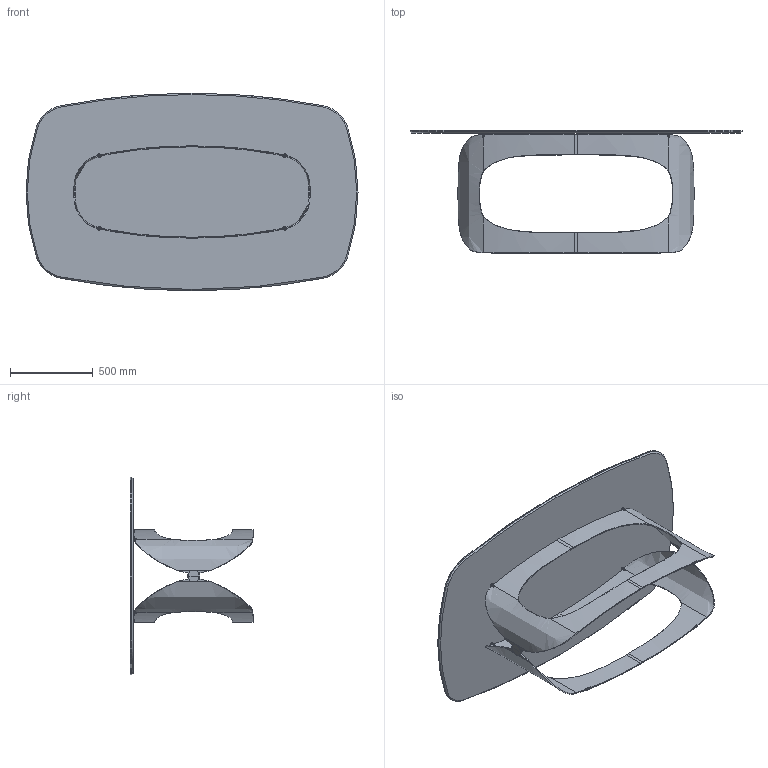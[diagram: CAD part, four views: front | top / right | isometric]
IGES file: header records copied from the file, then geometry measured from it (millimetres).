
Start section: SolidWorks IGES file using analytic representation for surfaces
Global section: file name: Y:\eforma\TECNICO\SOLIDWORKS\E-FORMA\1-TAVOLI\POLIFEMO\02 parts\PO40C.IGS; native system: SolidWorks 2022; preprocessor: SolidWorks 2022; author: eforma.tech; date: 240806.160554; units: millimetre
Bounding box: 2000 x 740.97 x 1190 mm (x, y, z)
Volume: 41433970.3 mm3; surface area: 11188269.1 mm2
Topology: 25 solids, 25 shells, 497 faces, 1229 edges, 788 vertices
Faces by surface type: revolution 264, plane 153, bspline 80
